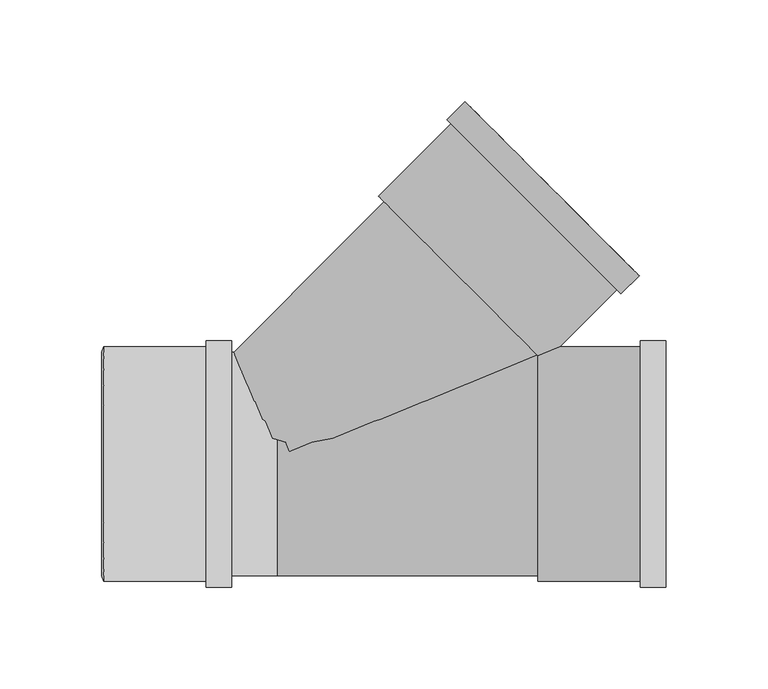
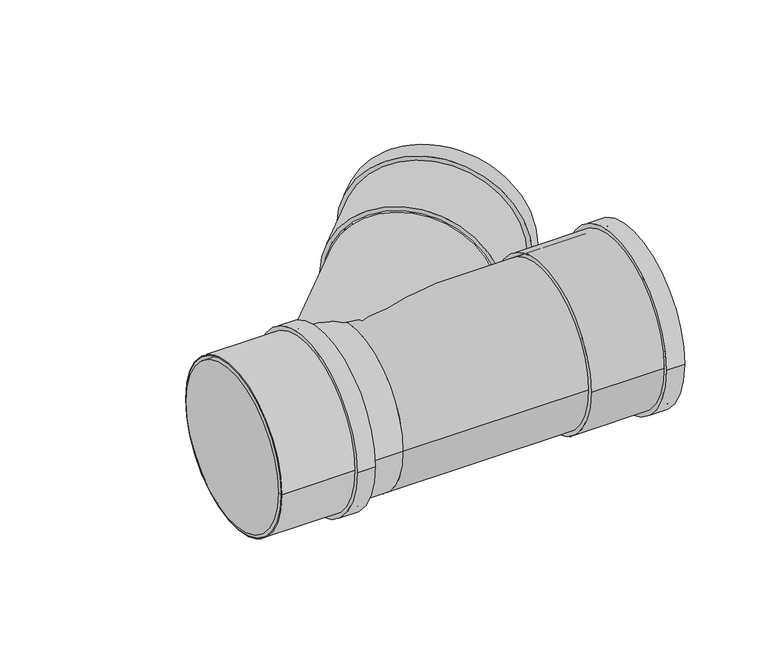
"""IFC4 building model written with IfcOpenShell, lengths in millimetres: pipe fitting geometry, Superdrain HTEA Branch : Superdrain HTEA Branch."""

from ifc_helpers import new_model, si_unit, point, frame, origin, origin_2d, place, context, project, spatial, polyline, circle_curve, trimmed, segment, composite_curve, outline, extrude, source, transform, mapped, element, save
from ifc_brep_helpers import plane_surface, cylinder_surface, revolved_surface, advanced_brep


def pipe_fitting_e5fbb224(model_context):
    return source(origin(), model_context, "Body", "SolidModel", [
        extrude(outline(composite_curve([segment(trimmed(circle_curve(origin_2d(), 57.75), [point((57.75, 0.0))], [point((-57.75, 0.0))], False, "CARTESIAN"), True, "CONTINUOUS"), segment(trimmed(circle_curve(origin_2d(), 57.75), [point((-57.75, 0.0))], [point((57.75, 0.0))], False, "CARTESIAN"), True, "CONTINUOUS")], self_intersect=False), holes=[composite_curve([segment(trimmed(circle_curve(origin_2d(), 55.0), [point((55.0, 0.0))], [point((-55.0, 0.0))], True, "CARTESIAN"), True, "CONTINUOUS"), segment(trimmed(circle_curve(origin_2d(), 55.0), [point((-55.0, 0.0))], [point((55.0, 0.0))], True, "CARTESIAN"), True, "CONTINUOUS")], self_intersect=False)]), frame((-85.4, 0.0, 0.0), z_axis=(1.0, 0.0, 0.0), x_axis=(0.0, 1.0, 0.0)), (0.0, 0.0, 1.0), 63.0),
        extrude(outline(composite_curve([segment(trimmed(circle_curve(origin_2d(), 60.6375), [point((60.6375, 0.0))], [point((-60.6375, 0.0))], False, "CARTESIAN"), True, "CONTINUOUS"), segment(trimmed(circle_curve(origin_2d(), 60.6375), [point((-60.6375, 0.0))], [point((60.6375, 0.0))], False, "CARTESIAN"), True, "CONTINUOUS")], self_intersect=False), holes=[composite_curve([segment(trimmed(circle_curve(origin_2d(), 55.0), [point((55.0, 0.0))], [point((-55.0, 0.0))], True, "CARTESIAN"), True, "CONTINUOUS"), segment(trimmed(circle_curve(origin_2d(), 55.0), [point((-55.0, 0.0))], [point((55.0, 0.0))], True, "CARTESIAN"), True, "CONTINUOUS")], self_intersect=False)]), frame((-35.0, 0.0, 0.0), z_axis=(1.0, 0.0, 0.0), x_axis=(0.0, 1.0, 0.0)), (0.0, 0.0, 1.0), 12.6),
        advanced_brep(
        [(-86.4, 55.0, 0.0), (-86.4, -55.0, 0.0), (-85.4, 57.75, 0.0), (-85.4, -57.75, 0.0)],
        [
            (0, 1, circle_curve(frame((-86.4, 0.0, 0.0), z_axis=(-1.0, 0.0, 0.0), x_axis=(0.0, 1.0, 0.0)), 55.0)),
            (1, 0, circle_curve(frame((-86.4, 0.0, 0.0), z_axis=(-1.0, 0.0, 0.0), x_axis=(0.0, -1.0, 0.0)), 55.0)),
            (2, 3, circle_curve(frame((-85.4, 0.0, 0.0), z_axis=(1.0, 0.0, 0.0), x_axis=(0.0, -1.0, 0.0)), 57.75)),
            (3, 2, circle_curve(frame((-85.4, 0.0, 0.0), z_axis=(1.0, 0.0, 0.0), x_axis=(0.0, 1.0, 0.0)), 57.75)),
            (3, 1),
            (0, 2),
        ],
        [
            plane_surface(frame((-86.4, 0.0, 0.0), z_axis=(-1.0, 0.0, 0.0), x_axis=(0.0, 0.0, -1.0))),
            plane_surface(frame((-85.4, 0.0, 0.0), z_axis=(1.0, 0.0, 0.0), x_axis=(0.0, 0.0, -1.0))),
            revolved_surface(polyline([(-86.4, 55.0, 0.0), (-85.4, 57.75, 0.0)]), (-106.4, 0.0, 0.0), (1.0, 0.0, 0.0)),
            revolved_surface(polyline([(-86.4, -55.0, 0.0), (-85.4, -57.75, 0.0)]), (-106.4, 0.0, 0.0), (1.0, 0.0, 0.0)),
        ],
        [
            (0, [[1, 2]]),
            (1, [[3, 4]]),
            (2, [[-4, 5, -1, 6]]),
            (3, [[-3, -6, -2, -5]]),
        ],
    ),
        advanced_brep(
        [(128.6, -57.75, 0.0), (128.6, 57.75, 0.0), (191.6, -57.75, 0.0), (191.6, 57.75, 0.0), (191.6, -55.0, 0.0), (191.6, 55.0, 0.0), (129.6, -55.0, 0.0), (129.6, 55.0, 0.0)],
        [
            (0, 1, circle_curve(frame((128.6, 0.0, 0.0), z_axis=(-1.0, 0.0, 0.0), x_axis=(0.0, 1.0, 0.0)), 57.75)),
            (1, 0, circle_curve(frame((128.6, 0.0, 0.0), z_axis=(-1.0, 0.0, 0.0), x_axis=(0.0, 1.0, 0.0)), 57.75)),
            (2, 3, circle_curve(frame((191.6, 0.0, 0.0), z_axis=(1.0, 0.0, 0.0), x_axis=(0.0, 1.0, 0.0)), 57.75)),
            (3, 2, circle_curve(frame((191.6, 0.0, 0.0), z_axis=(1.0, 0.0, 0.0), x_axis=(0.0, 1.0, 0.0)), 57.75)),
            (4, 5, circle_curve(frame((191.6, 0.0, 0.0), z_axis=(-1.0, 0.0, 0.0), x_axis=(0.0, 1.0, 0.0)), 55.0)),
            (5, 4, circle_curve(frame((191.6, 0.0, 0.0), z_axis=(-1.0, 0.0, 0.0), x_axis=(0.0, 1.0, 0.0)), 55.0)),
            (0, 2),
            (3, 1),
            (6, 7, circle_curve(frame((129.6, 0.0, 0.0), z_axis=(-1.0, 0.0, 0.0), x_axis=(0.0, 1.0, 0.0)), 55.0)),
            (7, 5),
            (4, 6),
            (7, 6, circle_curve(frame((129.6, 0.0, 0.0), z_axis=(-1.0, 0.0, 0.0), x_axis=(0.0, 1.0, 0.0)), 55.0)),
        ],
        [
            plane_surface(frame((128.6, 0.0, 0.0), z_axis=(-1.0, 0.0, 0.0), x_axis=(0.0, 0.0, 1.0))),
            plane_surface(frame((191.6, 0.0, 0.0), z_axis=(1.0, 0.0, 0.0), x_axis=(0.0, 0.0, 1.0))),
            cylinder_surface(frame((128.6, 0.0, 0.0), z_axis=(-1.0, 0.0, 0.0), x_axis=(0.0, 1.0, 0.0)), 57.75),
            revolved_surface(polyline([(129.6, 55.0, 0.0), (191.6, 55.0, 0.0)]), (129.6, 0.0, 0.0), (-1.0, 0.0, 0.0)),
            plane_surface(frame((129.6, 0.0, 0.0), z_axis=(1.0, 0.0, 0.0), x_axis=(0.0, 0.0, 1.0))),
        ],
        [
            (0, [[1, 2]]),
            (1, [[3, 4], [5, 6]]),
            (2, [[-1, 7, -4, 8]]),
            (2, [[-2, -8, -3, -7]]),
            (3, [[9, 10, -5, 11]]),
            (3, [[12, -11, -6, -10]]),
            (4, [[-12, -9]]),
        ],
    ),
        extrude(outline(composite_curve([segment(trimmed(circle_curve(origin_2d(), 60.6375), [point((60.6375, 0.0))], [point((-60.6375, 0.0))], False, "CARTESIAN"), True, "CONTINUOUS"), segment(trimmed(circle_curve(origin_2d(), 60.6375), [point((-60.6375, 0.0))], [point((60.6375, 0.0))], False, "CARTESIAN"), True, "CONTINUOUS")], self_intersect=False), holes=[composite_curve([segment(trimmed(circle_curve(origin_2d(), 55.0), [point((55.0, 0.0))], [point((-55.0, 0.0))], True, "CARTESIAN"), True, "CONTINUOUS"), segment(trimmed(circle_curve(origin_2d(), 55.0), [point((-55.0, 0.0))], [point((55.0, 0.0))], True, "CARTESIAN"), True, "CONTINUOUS")], self_intersect=False)]), frame((179.0, 0.0, 0.0), z_axis=(1.0, 0.0, 0.0), x_axis=(0.0, 1.0, 0.0)), (0.0, 0.0, 1.0), 12.6),
        extrude(outline(composite_curve([segment(trimmed(circle_curve(origin_2d(), 53.9), [point((0.0, 53.9))], [point((0.0, -53.9))], False, "CARTESIAN"), True, "CONTINUOUS"), segment(trimmed(circle_curve(origin_2d(), 53.9), [point((0.0, -53.9))], [point((0.0, 53.9))], False, "CARTESIAN"), True, "CONTINUOUS")], self_intersect=False)), frame((0.0, 0.0, 0.0), z_axis=(0.7071067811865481, 0.707106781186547, 0.0), x_axis=(0.0, 0.0, 1.0)), (0.0, 0.0, 1.0), 128.6),
        extrude(outline(composite_curve([segment(trimmed(circle_curve(origin_2d(), 55.0), [point((55.0, 0.0))], [point((-55.0, 0.0))], False, "CARTESIAN"), True, "CONTINUOUS"), segment(trimmed(circle_curve(origin_2d(), 55.0), [point((-55.0, 0.0))], [point((55.0, 0.0))], False, "CARTESIAN"), True, "CONTINUOUS")], self_intersect=False)), frame((-85.4, 0.0, 0.0), z_axis=(1.0, 0.0, 0.0), x_axis=(0.0, 1.0, 0.0)), (0.0, 0.0, 1.0), 85.4),
        extrude(outline(composite_curve([segment(trimmed(circle_curve(origin_2d(), 55.0), [point((-55.0, 0.0))], [point((55.0, 0.0))], False, "CARTESIAN"), True, "CONTINUOUS"), segment(trimmed(circle_curve(origin_2d(), 55.0), [point((55.0, 0.0))], [point((-55.0, 0.0))], False, "CARTESIAN"), True, "CONTINUOUS")], self_intersect=False)), frame((0.0, 0.0, 0.0), z_axis=(1.0, 0.0, 0.0), x_axis=(0.0, 1.0, 0.0)), (0.0, 0.0, 1.0), 128.6),
        extrude(outline(composite_curve([segment(trimmed(circle_curve(origin_2d(), 60.6375), [point((0.0, 60.6375))], [point((0.0, -60.6375))], False, "CARTESIAN"), True, "CONTINUOUS"), segment(trimmed(circle_curve(origin_2d(), 60.6375), [point((0.0, -60.6375))], [point((0.0, 60.6375))], False, "CARTESIAN"), True, "CONTINUOUS")], self_intersect=False), holes=[composite_curve([segment(trimmed(circle_curve(origin_2d(), 55.0), [point((0.0, 55.0))], [point((0.0, -55.0))], True, "CARTESIAN"), True, "CONTINUOUS"), segment(trimmed(circle_curve(origin_2d(), 55.0), [point((0.0, -55.0))], [point((0.0, 55.0))], True, "CARTESIAN"), True, "CONTINUOUS")], self_intersect=False)]), frame((126.5721138, 126.5721138, 0.0), z_axis=(0.7071067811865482, 0.7071067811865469, 0.0), x_axis=(0.0, 0.0, 1.0)), (0.0, 0.0, 1.0), 12.6),
        extrude(outline(composite_curve([segment(trimmed(circle_curve(origin_2d(), 57.75), [point((0.0, 57.7500001))], [point((0.0, -57.7500001))], False, "CARTESIAN"), True, "CONTINUOUS"), segment(trimmed(circle_curve(origin_2d(), 57.75), [point((0.0, -57.7500001))], [point((0.0, 57.7500001))], False, "CARTESIAN"), True, "CONTINUOUS")], self_intersect=False), holes=[composite_curve([segment(trimmed(circle_curve(origin_2d(), 55.0), [point((0.0, 55.0))], [point((0.0, -55.0))], True, "CARTESIAN"), True, "CONTINUOUS"), segment(trimmed(circle_curve(origin_2d(), 55.0), [point((0.0, -55.0))], [point((0.0, 55.0))], True, "CARTESIAN"), True, "CONTINUOUS")], self_intersect=False)]), frame((90.9339321, 90.9339321, 0.0), z_axis=(0.7071067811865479, 0.7071067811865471, 0.0), x_axis=(0.0, 0.0, 1.0)), (0.0, 0.0, 1.0), 63.0),
    ])


if __name__ == "__main__":
    model = new_model("IFC4")
    model_context = context("Model", 3, world=origin())
    ifc_project = project(units=[si_unit("LENGTHUNIT", "METRE", prefix="MILLI")], contexts=[model_context])
    site = spatial("IfcSite", under=ifc_project)
    building = spatial("IfcBuilding", under=site)
    placement = place(None, origin())
    pipe_fitting_shape = pipe_fitting_e5fbb224(model_context)
    element("IfcPipeFitting", 1, ObjectType="Superdrain HTEA Branch : Superdrain HTEA Branch", at=placement, inside=building, context=model_context, shape_type="MappedRepresentation", body=[
        mapped(pipe_fitting_shape, transform((0.0, 0.0, 0.0), x_axis=(1.0, 0.0, 0.0), y_axis=(0.0, 1.0, 0.0), z_axis=(0.0, 0.0, 1.0))),
    ])
    save(model, "model.ifc")
